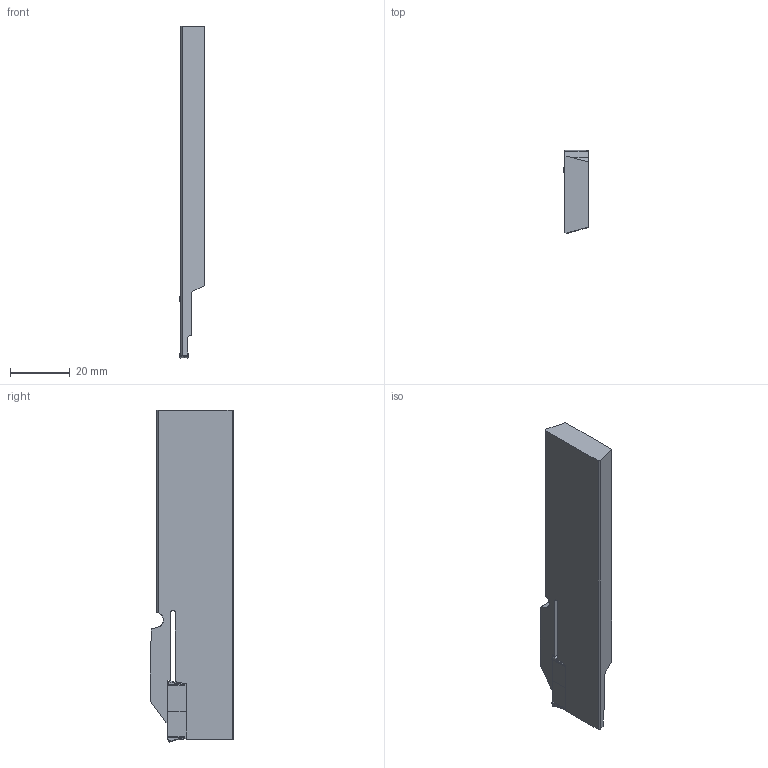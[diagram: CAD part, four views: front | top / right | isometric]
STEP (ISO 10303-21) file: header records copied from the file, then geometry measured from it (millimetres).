
FILE_DESCRIPTION(('CATIA V5 STEP'),'2;1');
FILE_NAME('I:\isr\design\admin8\users\wasweem_t\2394483 - L.stp','2014-02-06T10:57:01+00:00',('none'),('none'),'CATIA Version 5 Release 21 SP 3 (IN-10)','CATIA V5 STEP AP214','none');
FILE_SCHEMA(('AUTOMOTIVE_DESIGN { 1 0 10303 214 1 1 1 1 }'));
Length unit declared in the file: millimetre
Products named in the file (1): 620123128_0  DGFHL 26B-3TR-D36
Bounding box: 8.24 x 27.79 x 111 mm (x, y, z)
Volume: 17712.9 mm3; surface area: 7647.9 mm2
Topology: 2 solids, 2 shells, 119 faces, 371 edges, 257 vertices
Faces by surface type: plane 60, cylinder 28, bspline 26, torus 3, cone 2
Entity records: 6742 total; most frequent: CARTESIAN_POINT 3914, ORIENTED_EDGE 684, DIRECTION 357, EDGE_CURVE 342, VERTEX_POINT 227, VECTOR 175, LINE 175, B_SPLINE_CURVE_WITH_KNOTS 166
